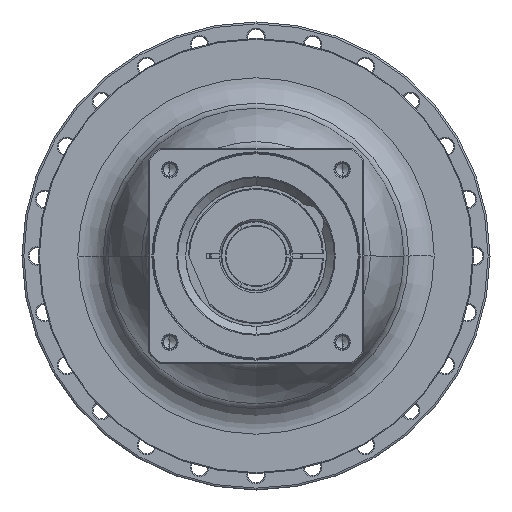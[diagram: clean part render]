
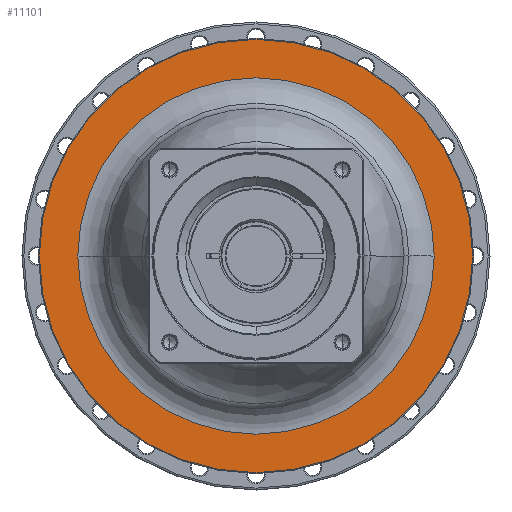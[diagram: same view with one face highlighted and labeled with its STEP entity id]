
A CAD part, left-side view. The second image highlights one B-rep face of the part: STEP entity #11101.
In plain terms, the highlighted planar face has unit normal (-1, 0, 0) as drawn and (1, 0, 0) by its records, which use the part's own axes.
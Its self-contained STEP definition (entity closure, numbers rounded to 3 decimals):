
#10604=CARTESIAN_POINT('',(-67.,0.,0.));
#10605=DIRECTION('',(-1.,0.,0.));
#10606=DIRECTION('',(0.,1.,0.));
#10607=AXIS2_PLACEMENT_3D('',#10604,#10605,#10606);
#10619=CARTESIAN_POINT('',(-67.,0.,0.));
#10620=DIRECTION('',(1.,0.,0.));
#10621=DIRECTION('',(0.,1.,0.));
#10622=AXIS2_PLACEMENT_3D('',#10619,#10620,#10621);
#10624=CARTESIAN_POINT('',(-67.,0.,0.));
#10625=DIRECTION('',(-1.,0.,0.));
#10626=DIRECTION('',(0.,-1.,0.));
#10627=AXIS2_PLACEMENT_3D('',#10624,#10625,#10626);
#10629=CARTESIAN_POINT('',(-67.,0.,0.));
#10630=DIRECTION('',(-1.,0.,0.));
#10631=DIRECTION('',(0.,1.,0.));
#10632=AXIS2_PLACEMENT_3D('',#10629,#10630,#10631);
#10754=CARTESIAN_POINT('',(-67.,-115.5,0.));
#10755=CARTESIAN_POINT('',(-67.,115.5,0.));
#10756=VERTEX_POINT('',#10754);
#10757=VERTEX_POINT('',#10755);
#10778=CARTESIAN_POINT('',(-67.,95.,0.));
#10779=CARTESIAN_POINT('',(-67.,-95.,0.));
#10780=VERTEX_POINT('',#10778);
#10781=VERTEX_POINT('',#10779);
#11086=CARTESIAN_POINT('',(-67.,0.,0.));
#11087=DIRECTION('',(1.,0.,0.));
#11088=DIRECTION('',(0.,-1.,0.));
#11089=AXIS2_PLACEMENT_3D('',#11086,#11087,#11088);
#11090=PLANE('',#11089);
#11092=ORIENTED_EDGE('',*,*,#11091,.T.);
#11094=ORIENTED_EDGE('',*,*,#11093,.T.);
#11095=EDGE_LOOP('',(#11092,#11094));
#11096=FACE_OUTER_BOUND('',#11095,.F.);
#11097=ORIENTED_EDGE('',*,*,#11080,.T.);
#11098=ORIENTED_EDGE('',*,*,#11066,.F.);
#11099=EDGE_LOOP('',(#11097,#11098));
#11100=FACE_BOUND('',#11099,.F.);
#11101=ADVANCED_FACE('',(#11096,#11100),#11090,.T.);
#10608=CIRCLE('',#10607,95.);
#10623=CIRCLE('',#10622,95.);
#10628=CIRCLE('',#10627,115.5);
#10633=CIRCLE('',#10632,115.5);
#11066=EDGE_CURVE('',#10780,#10781,#10608,.T.);
#11080=EDGE_CURVE('',#10780,#10781,#10623,.T.);
#11091=EDGE_CURVE('',#10756,#10757,#10628,.T.);
#11093=EDGE_CURVE('',#10757,#10756,#10633,.T.);
